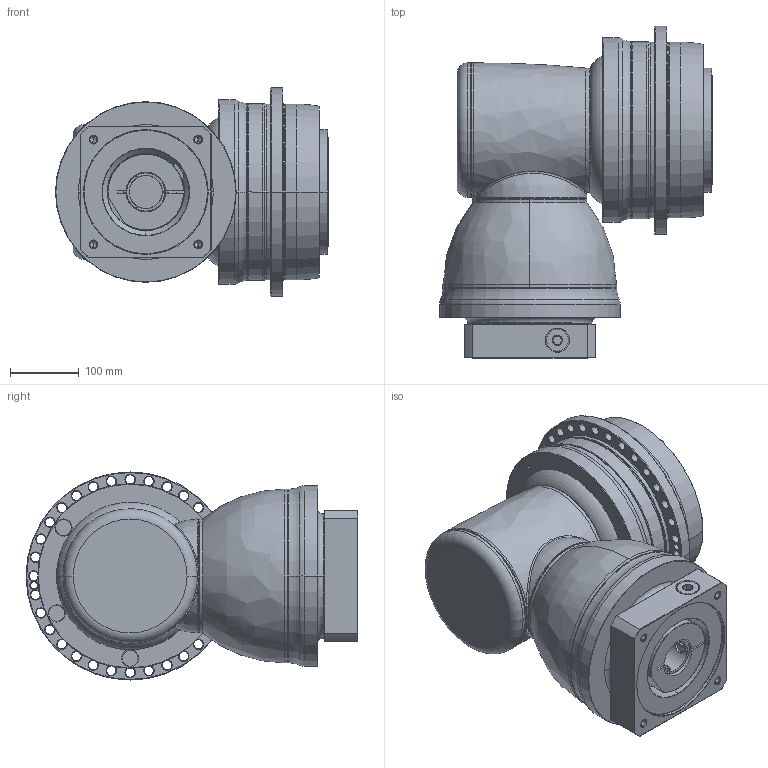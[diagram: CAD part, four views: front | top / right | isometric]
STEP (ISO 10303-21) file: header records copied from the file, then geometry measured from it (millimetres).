
FILE_DESCRIPTION((''),'2;1');
FILE_NAME('APK255_2ST_SBG_48-P0409B10201_ASM','2018-10-30T',('d01226'),(''),'PRO/ENGINEER BY PARAMETRIC TECHNOLOGY CORPORATION, 2015240','PRO/ENGINEER BY PARAMETRIC TECHNOLOGY CORPORATION, 2015240','');
FILE_SCHEMA(('CONFIG_CONTROL_DESIGN'));
Length unit declared in the file: millimetre
Products named in the file (13): P0278701003; P0359701103; P1211700001; P1802710001; P1018700002; P1365700001; P1007701001; P1318701301; P0503B00016; P0912753001; P0409B10201; 21711426021; APK255_2ST_SBG_48-P0409B10201_ASM
Assembly tree (12 placements, depth 2):
  APK255_2ST_SBG_48-P0409B10201_ASM
    P0278701003
    P0359701103
    P1211700001
    P1802710001
    P1018700002
    P1365700001
    P1007701001
    P1318701301
    P0503B00016
    P0912753001
    P0409B10201
    21711426021
Bounding box: 396 x 481.5 x 302 mm (x, y, z)
Volume: 23736164 mm3; surface area: 1506133.3 mm2
Topology: 13 solids, 36 shells, 858 faces, 2022 edges, 1218 vertices
Faces by surface type: cylinder 342, cone 263, plane 136, torus 85, bspline 31, sphere 1
Entity records: 31193 total; most frequent: CARTESIAN_POINT 10736, DIRECTION 4699, ORIENTED_EDGE 3872, AXIS2_PLACEMENT_3D 2014, EDGE_CURVE 1983, VERTEX_POINT 1218, CIRCLE 1150, EDGE_LOOP 1009
